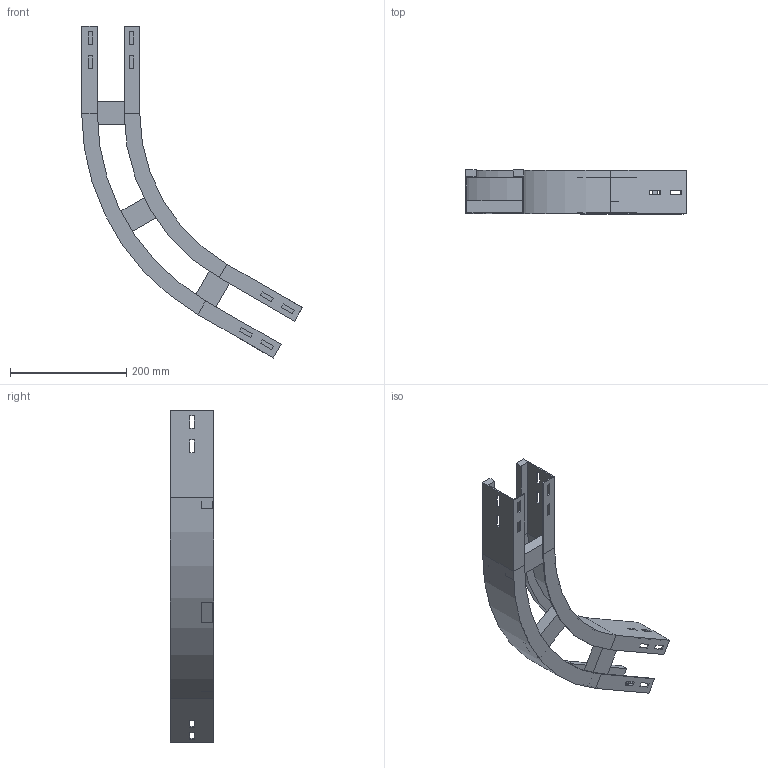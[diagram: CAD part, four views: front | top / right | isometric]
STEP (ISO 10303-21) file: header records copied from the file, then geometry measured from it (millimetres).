
FILE_DESCRIPTION (( 'STEP AP214' ), '1' );
FILE_NAME ('A2_13B3C100.step', '2025-02-21T15:21:00', ( '' ), ( '' ), 'SwSTEP 2.0', 'SolidWorks 2023', '' );
FILE_SCHEMA (( 'AUTOMOTIVE_DESIGN' ));
Length unit declared in the file: millimetre
Products named in the file (4): TRAVERSINO_100; A2_13B3C100; A2_LONGH.ESTERNO 60°_H75_R300+100; A2_LONGH.INTERNO 60°_H75_R300
Assembly tree (5 placements, depth 2):
  A2_13B3C100
    A2_LONGH.INTERNO 60°_H75_R300
    A2_LONGH.ESTERNO 60°_H75_R300+100
    TRAVERSINO_100  x3
Bounding box: 379.9 x 75 x 571.41 mm (x, y, z)
Volume: 750903 mm3; surface area: 352801 mm2
Topology: 5 solids, 5 shells, 134 faces, 340 edges, 216 vertices
Faces by surface type: plane 126, cylinder 8
Entity records: 3821 total; most frequent: CARTESIAN_POINT 646, ORIENTED_EDGE 632, DIRECTION 592, EDGE_CURVE 316, VECTOR 300, LINE 300, VERTEX_POINT 200, EDGE_LOOP 154
